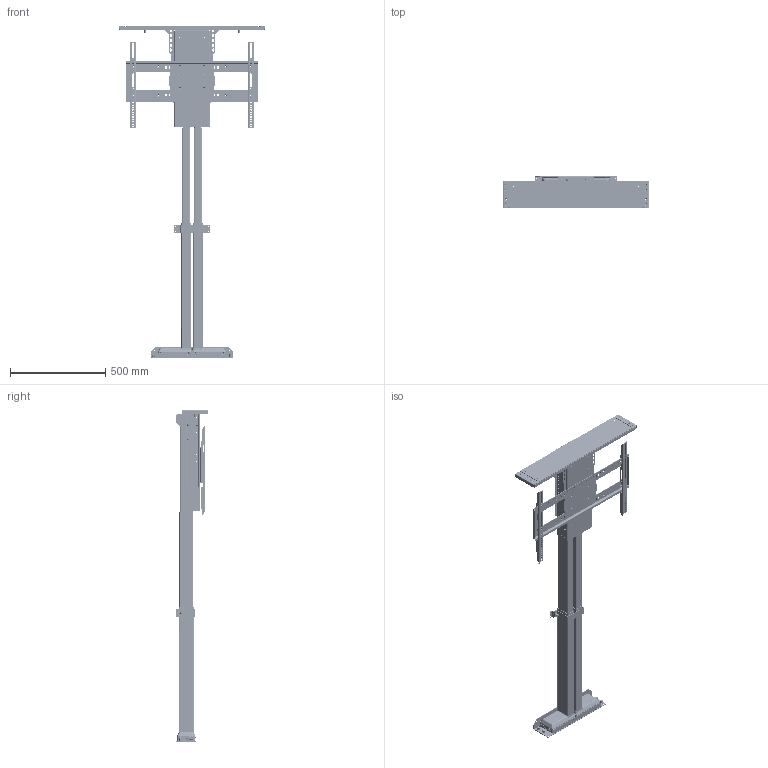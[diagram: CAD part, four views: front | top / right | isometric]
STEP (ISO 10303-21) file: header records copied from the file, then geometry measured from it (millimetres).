
FILE_DESCRIPTION(/* description */ ('STEP AP242','CAx-IF Rec.Pracs.---Representation and Presentation of Product Manufacturing Information (PMI)---4.0---2014-10-13','CAx-IF Rec.Pracs.---3D Tessellated Geometry---0.4---2014-09-14','2;1'),/* implementation_level */ '2;1');
FILE_NAME(/* name */ '654aa176c3dc330f76ed9328',/* time_stamp */ '2023-11-07T20:43:37Z',/* author */ (''),/* organization */ (''),/* preprocessor_version */ 'ST-DEVELOPER v19.4',/* originating_system */ ' ',/* authorisation */ ' ');
FILE_SCHEMA (('AP242_MANAGED_MODEL_BASED_3D_ENGINEERING_MIM_LF { 1 0 10303 442 1 1 4 }'));
Products named in the file (53): DL-65 (HD); WDS8151-215; Hex socket countersunk head screw M6x1 x 12; Socket button head screw M6x1 x 12; Socket button head screw M6x1 x 16; ULS-NX-032 - HD Quick Release LC Mount; Lift Column H <2>; L45 LC Motor Housing; L45 LC Inner Profile; L45 LC Middle Profile; L65 PS Adapter; ULS-NX-031 - HD QUICK RELEASE BASE MOUNT w/ PEMS <1>; ULS-NX-031 - HD QUICK RELEASE BASE MOUNT; PEM FHS-M6-12  ; ULS-NX-030 - HD REAR SUPPORT w/ PEMs <1>; ULS-NX-030 - HD Rear Support; ULS-NX-029 - HD Column Clamp; Lift Column H <1>; SS Fixed Short - Rev B2 <1>; PEM CLS-M6-1; PEM Nut F-M4-2; PEM Nut CLSS-M5-1; PS Screen Support Fixed 01; SBP & VMB <1>; PZ Pan head screw M5x0.80 x 25; ULS-NX-118 - UL VMB WELDMENT <1>; 90107A012; PEM BSO-632-10  ZI; VMB Washer; ULS-NX-020 - UL SCREEN LOCK; Socket button head cap screw #6-32 x 0.188; ULS-NX-019 - UL LEVEL ADJUSTMENT PLATE; ULS-NX-018 - UL VERICAL MOUNTING BAR; ULS-NX-118 - UL VMB WELDMENT <2>; ULS-NX-017 - UL SCREEN BACK PLATE; L-65 HD Lid Plate Assembly w/ Lid Supports <2>; ULS-NX-039 - ULS HD LID SUPPORT w/ PEMs <2>; ULS-NX-039 -- ULS HD LID SUPPORT; PEM CLS-M6-00  ; ULS-NX-039 - ULS HD LID SUPPORT w/ PEMs <1>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
Assembly tree (196 placements, depth 5):
  DL-65 (HD)
    WDS8151-215  x6
    Hex socket countersunk head screw M6x1 x 12  x17
    Socket button head screw M6x1 x 12  x8
    Socket button head screw M6x1 x 16  x8
    ULS-NX-032 - HD Quick Release LC Mount
    Lift Column H <2>
      L45 LC Motor Housing
      L45 LC Inner Profile
      L45 LC Middle Profile
    L65 PS Adapter
    ULS-NX-031 - HD QUICK RELEASE BASE MOUNT w/ PEMS <1>
      ULS-NX-031 - HD QUICK RELEASE BASE MOUNT
      PEM FHS-M6-12    x4
    ULS-NX-030 - HD REAR SUPPORT w/ PEMs <1>
      PEM FHS-M6-12    x2
      ULS-NX-030 - HD Rear Support
    ULS-NX-029 - HD Column Clamp
    Lift Column H <1>
      L45 LC Inner Profile
      L45 LC Middle Profile
      L45 LC Motor Housing
    SS Fixed Short - Rev B2 <1>
      PEM CLS-M6-1  x42
      PEM Nut F-M4-2  x8
      PEM Nut CLSS-M5-1  x2
      PS Screen Support Fixed 01
      L65 PS Adapter
    SBP & VMB <1>
      PZ Pan head screw M5x0.80 x 25  x2
      ULS-NX-118 - UL VMB WELDMENT <1>
        90107A012  x2
        PEM BSO-632-10  ZI  x2
        VMB Washer  x4
        ULS-NX-020 - UL SCREEN LOCK
        Socket button head cap screw #6-32 x 0.188  x2
        ULS-NX-019 - UL LEVEL ADJUSTMENT PLATE
        ULS-NX-018 - UL VERICAL MOUNTING BAR
      ULS-NX-118 - UL VMB WELDMENT <2>
        90107A012  x2
        PEM BSO-632-10  ZI  x2
        ULS-NX-018 - UL VERICAL MOUNTING BAR
        Socket button head cap screw #6-32 x 0.188  x2
        ULS-NX-019 - UL LEVEL ADJUSTMENT PLATE
        VMB Washer  x4
        ULS-NX-020 - UL SCREEN LOCK
      ULS-NX-017 - UL SCREEN BACK PLATE
    L-65 HD Lid Plate Assembly w/ Lid Supports <2>
      Hex socket countersunk head screw M6x1 x 12  x4
      ULS-NX-039 - ULS HD LID SUPPORT w/ PEMs <2>
        ULS-NX-039 -- ULS HD LID SUPPORT
        PEM CLS-M6-00    x2
      ULS-NX-039 - ULS HD LID SUPPORT w/ PEMs <1>
        ULS-NX-039 -- ULS HD LID SUPPORT
        PEM CLS-M6-00    x2
      L-65 HD Lid Plate Assembly w/ Lid Adapter <1>
        PEM S-M6-1  ZI  x6
        97069A106_Zinc-Plated Steel Spring Lock Washer  x4
        Plain washer extra large grade C M6  x4
        Hex thin nut grade A & B M6  x4
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Bounding box: 768.1 x 170.28 x 1745.93 mm (x, y, z)
Volume: 16710029 mm3; surface area: 2974110.9 mm2
Topology: 183 solids, 183 shells, 11364 faces, 29747 edges, 19197 vertices
Faces by surface type: plane 7030, cylinder 2705, cone 878, bspline 446, torus 251, sphere 54
Full cylindrical faces by diameter (mm): 2.642 x4, 3.505 x4, 4 x8, 4.496 x6, 4.6 x4, 4.917 x56, 5 x36, 5.026 x4, 5.08 x4, 5.277 x8, 5.3 x12, 5.385 x12, 5.41 x8, 5.6 x8, 5.944 x4, 5.994 x4, 6 x83, 6.35 x28, 6.4 x20, 6.6 x18, 6.655 x4, 6.934 x2, 7.112 x2, 7.37 x16, 7.493 x2, 7.925 x2, 8.128 x34, 8.509 x2, 8.64 x2, 8.73 x52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
Entity records: 101282 total; most frequent: CARTESIAN_POINT 19674, DIRECTION 15978, ORIENTED_EDGE 15460, EDGE_CURVE 7730, AXIS2_PLACEMENT_3D 5493, VERTEX_POINT 5172, LINE 4992, VECTOR 4992
